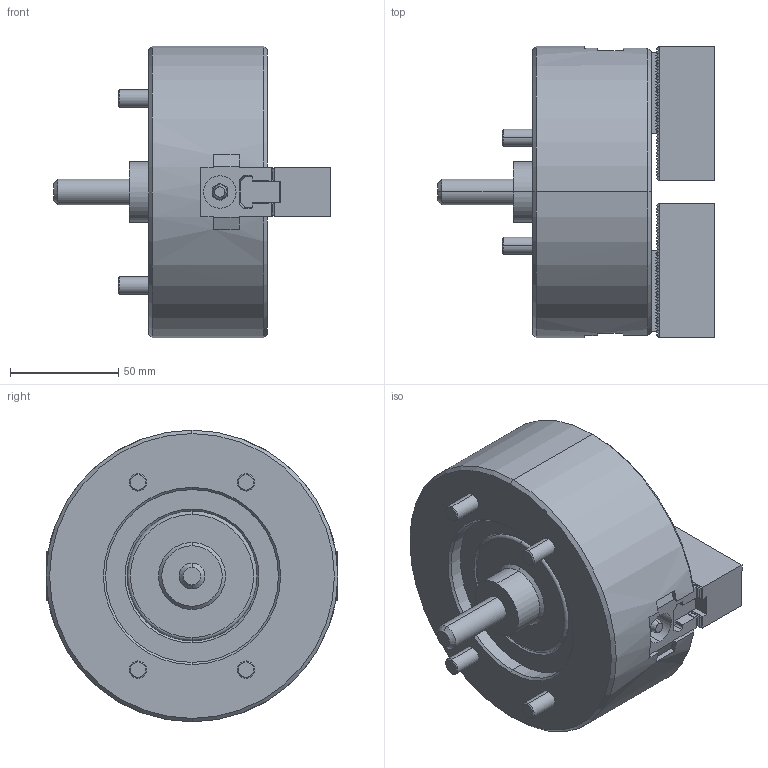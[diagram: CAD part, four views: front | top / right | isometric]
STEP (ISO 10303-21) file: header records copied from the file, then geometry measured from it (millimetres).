
FILE_DESCRIPTION (( 'STEP AP214' ), '1' );
FILE_NAME ('NT05_OC.STEP', '2019-12-19T06:43:02', ( '' ), ( '' ), 'SwSTEP 2.0', 'SolidWorks 2017', '' );
FILE_SCHEMA (( 'AUTOMOTIVE_DESIGN' ));
Length unit declared in the file: millimetre
Products named in the file (5): 結合; 0030108022; 61P400839_俿僫僢僩; 61P315771_ソフトジョー; NT05_OC
Assembly tree (9 placements, depth 2):
  NT05_OC
    61P315771_ソフトジョー  x2
    61P400839_俿僫僢僩  x2
    0030108022  x4
    結合
Bounding box: 128.2 x 135 x 135 mm (x, y, z)
Volume: 827514.3 mm3; surface area: 96127.8 mm2
Topology: 9 solids, 9 shells, 1631 faces, 4514 edges, 2929 vertices
Faces by surface type: plane 1344, cylinder 140, cone 113, torus 34
Entity records: 39796 total; most frequent: CARTESIAN_POINT 7658, ORIENTED_EDGE 6862, DIRECTION 6238, EDGE_CURVE 3431, VECTOR 2954, LINE 2954, VERTEX_POINT 2234, AXIS2_PLACEMENT_3D 1642
